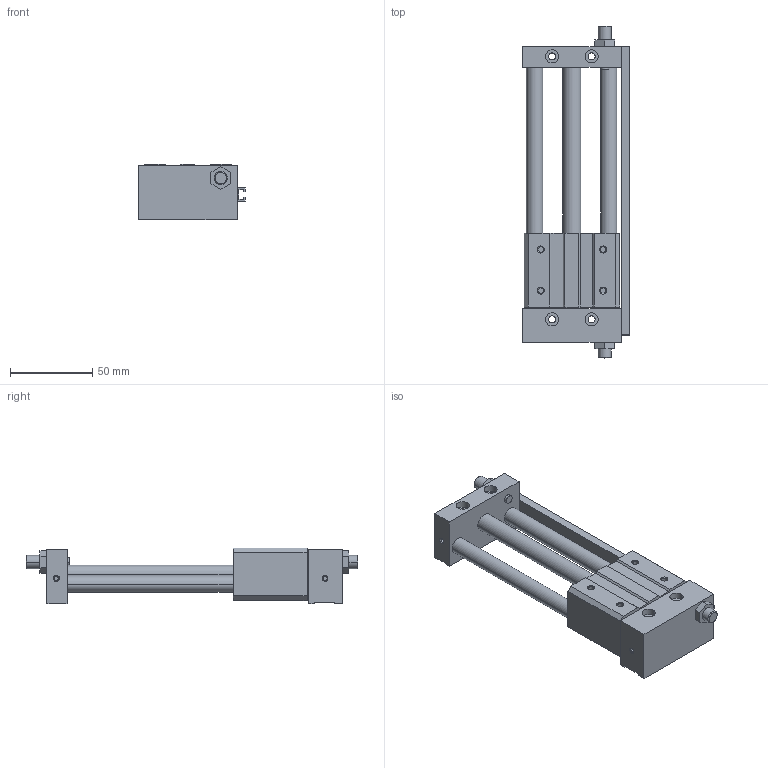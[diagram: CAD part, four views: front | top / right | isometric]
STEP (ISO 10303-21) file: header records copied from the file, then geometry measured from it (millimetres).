
FILE_DESCRIPTION((''),'2;1');
FILE_NAME('C:\Documents and Settings\Administrator\桌面\GYS\GYS10\GYSR10X100.stp','2012-03-05T10:11:15',('Administrator'),(''),'Autodesk Inventor 8','Autodesk Inventor 8','');
FILE_SCHEMA(('AUTOMOTIVE_DESIGN { 1 0 10303 214 1 1 1 1 }'));
Length unit declared in the file: millimetre
Products named in the file (3): GYSR10X100; GYS10X100; GYS10160X100
Assembly tree (2 placements, depth 2):
  GYSR10X100
    GYS10X100
    GYS10160X100
Bounding box: 65 x 202 x 34 mm (x, y, z)
Volume: 172307.5 mm3; surface area: 44715.6 mm2
Topology: 2 solids, 2 shells, 193 faces, 462 edges, 296 vertices
Faces by surface type: plane 97, cylinder 58, cone 32, bspline 6
Entity records: 5756 total; most frequent: CARTESIAN_POINT 1030, DIRECTION 1006, ORIENTED_EDGE 924, EDGE_CURVE 462, AXIS2_PLACEMENT_3D 352, VECTOR 302, LINE 302, VERTEX_POINT 296
